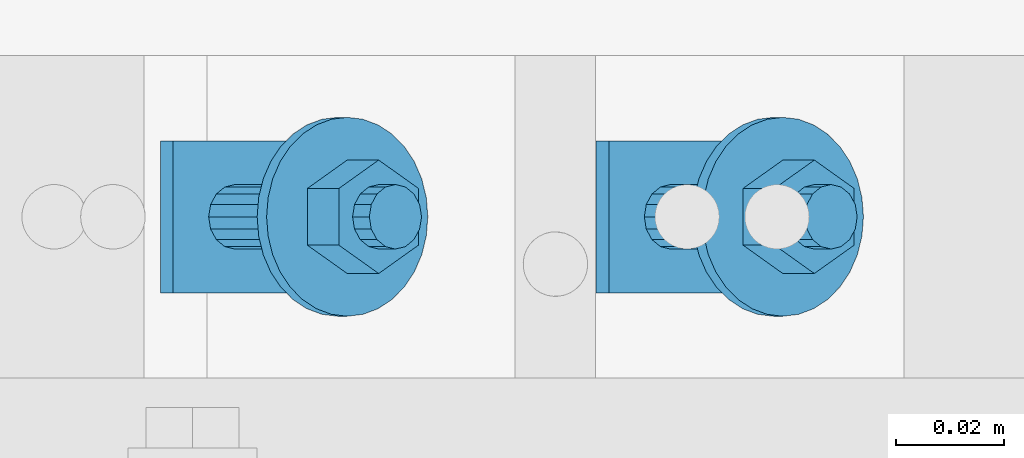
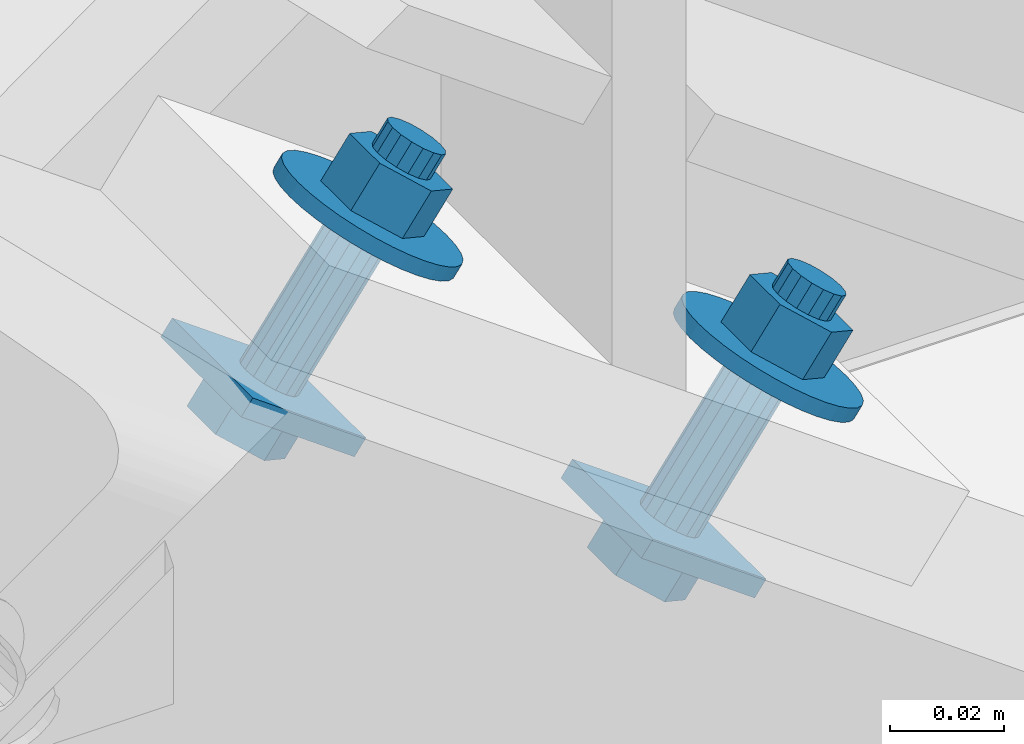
# One storey, part 328 of 825: 1 mechanical fastener.
"""IFC2X3 building model written with IfcOpenShell, lengths in millimetres."""

import ifcopenshell
import ifcopenshell.guid

model = None  # the IFC model being written
_history = None  # IfcOwnerHistory: only IFC2X3 demands one
_inside = {}  # id of a spatial element -> (the spatial element, [elements in it])
_under = {}  # id of a project, library or spatial element -> (it, [spatial elements below it])
_declared = {}  # id of a project -> (the project, [libraries it declares])
_typed = {}  # id of a type object -> (the type object, [elements of that type])
_made_of = {}  # id of a material, layer set ... -> (it, [elements and type objects made of it])


def new_model(schema):
    """Start an empty IFC model of exactly this schema.

    Asked for "IFC4X3", IfcOpenShell would pick the latest addendum, in which some entities
    have other attributes; the version numbers below select the first issue.
    IFC2X3 requires an IfcOwnerHistory on every rooted entity: one is made here for all.
    """
    global model, _history
    if schema == "IFC4X3":
        model = ifcopenshell.file(schema_version=(4, 3, 0, 0))
    else:
        model = ifcopenshell.file(schema=schema)
    _inside.clear()
    _under.clear()
    _declared.clear()
    _typed.clear()
    _made_of.clear()
    _history = None
    if model.schema == "IFC2X3":
        org = make("IfcOrganization", Name="unknown")
        user = make(
            "IfcPersonAndOrganization",
            ThePerson=make("IfcPerson", FamilyName="unknown"),
            TheOrganization=org,
        )
        app = make(
            "IfcApplication",
            ApplicationDeveloper=org,
            Version="unknown",
            ApplicationFullName="unknown",
            ApplicationIdentifier="unknown",
        )
        _history = make(
            "IfcOwnerHistory",
            OwningUser=user,
            OwningApplication=app,
            ChangeAction="ADDED",
            CreationDate=0,
        )
    return model


def make(cls, **values):
    """One entity of the class cls with the attributes given. An attribute that is None is left unset."""
    return model.create_entity(
        cls, **{name: value for name, value in values.items() if value is not None}
    )


def entity(cls, *values):
    """Any entity or typed value of the class cls, its attributes in the order of the schema. None: left unset."""
    e = model.create_entity(cls)
    for i, value in enumerate(values):
        if value is not None:
            e[i] = value
    return e


def rooted(cls, **values):
    """An entity with a GlobalId (a new one), such as an element, a storey or a relation."""
    return make(cls, GlobalId=ifcopenshell.guid.new(), OwnerHistory=_history, **values)


def si_unit(unit_type, name, prefix=None):
    """IfcSIUnit, for example si_unit("LENGTHUNIT", "METRE", prefix="MILLI")."""
    return make("IfcSIUnit", UnitType=unit_type, Prefix=prefix, Name=name)


def converted_unit(unit_type, name, factor, base, dimensions=None, offset=None):
    """IfcConversionBasedUnit, such as the inch: factor (a typed value) times the base unit."""
    return make(
        "IfcConversionBasedUnit"
        if offset is None
        else "IfcConversionBasedUnitWithOffset",
        ConversionOffset=offset,
        Dimensions=None
        if dimensions is None
        else entity("IfcDimensionalExponents", *dimensions),
        UnitType=unit_type,
        Name=name,
        ConversionFactor=make(
            "IfcMeasureWithUnit", ValueComponent=factor, UnitComponent=base
        ),
    )


def assignment(units):
    """IfcUnitAssignment: the units of a project."""
    return None if units is None else make("IfcUnitAssignment", Units=units)


def point(xyz):
    """IfcCartesianPoint."""
    return None if xyz is None else make("IfcCartesianPoint", Coordinates=xyz)


def direction(xyz):
    """IfcDirection."""
    return None if xyz is None else make("IfcDirection", DirectionRatios=xyz)


def frame(location, z_axis=None, x_axis=None):
    """IfcAxis2Placement3D, a coordinate frame: its origin and axes. An axis left out is left unset."""
    return make(
        "IfcAxis2Placement3D",
        Location=point(location),
        Axis=direction(z_axis),
        RefDirection=direction(x_axis),
    )


def origin_with_axes():
    """The frame at (0, 0, 0) with the z axis (0, 0, 1) and the x axis (1, 0, 0) written out."""
    return frame((0.0, 0.0, 0.0), z_axis=(0.0, 0.0, 1.0), x_axis=(1.0, 0.0, 0.0))


def place(relative_to, where):
    """IfcLocalPlacement: puts the frame where relative to a parent placement (None: the world)."""
    return make(
        "IfcLocalPlacement", PlacementRelTo=relative_to, RelativePlacement=where
    )


def context(
    kind, dimensions, precision=None, world=None, true_north=None, identifier=None
):
    """IfcGeometricRepresentationContext, for example the 3D "Model" context."""
    return make(
        "IfcGeometricRepresentationContext",
        ContextIdentifier=identifier,
        ContextType=kind,
        CoordinateSpaceDimension=dimensions,
        Precision=precision,
        WorldCoordinateSystem=world,
        TrueNorth=true_north,
    )


def project(units=None, contexts=None):
    """IfcProject with its units and contexts."""
    return rooted(
        "IfcProject",
        Name="project",
        RepresentationContexts=contexts,
        UnitsInContext=assignment(units),
    )


def spatial(cls, under=None, at=None, **own):
    """A site, building, storey or space (cls), placed at a placement, below another one or the project."""
    s = rooted(cls, ObjectPlacement=at, **own)
    if under is not None:
        _under.setdefault(under.id(), (under, []))[1].append(s)
    return s


def faces_of(points, faces, orient=None, outer=None):
    """IfcFace entities. A face is a list of loops; a loop is a list of indices into points, from 0.

    orient and outer hold one flag for each loop. By default every Orientation is true, the
    first loop of a face is its IfcFaceOuterBound and the others are IfcFaceBound.
    """
    made = []
    for i, loops in enumerate(faces):
        bounds = []
        for j, loop in enumerate(loops):
            is_outer = j == 0 if outer is None else outer[i][j]
            bounds.append(
                make(
                    "IfcFaceOuterBound" if is_outer else "IfcFaceBound",
                    Bound=make("IfcPolyLoop", Polygon=[points[k] for k in loop]),
                    Orientation=True if orient is None else orient[i][j],
                )
            )
        made.append(make("IfcFace", Bounds=bounds))
    return made


def faceted_brep(points, faces, orient=None, outer=None, voids=None):
    """IfcFacetedBrep: a solid bounded by flat faces; with voids (closed shells), ...WithVoids."""
    shared = [point(p) for p in points]
    hull = make("IfcClosedShell", CfsFaces=faces_of(shared, faces, orient, outer))
    if voids is None:
        return make("IfcFacetedBrep", Outer=hull)
    return make(
        "IfcFacetedBrepWithVoids",
        Outer=hull,
        Voids=[
            make(cls, CfsFaces=faces_of(shared, fs, o, b)) for cls, fs, o, b in voids
        ],
    )


def shape(context_of_items, identifier, shape_type, items):
    """IfcShapeRepresentation: the items that make up one representation, for example the "Body"."""
    return make(
        "IfcShapeRepresentation",
        ContextOfItems=context_of_items,
        RepresentationIdentifier=identifier,
        RepresentationType=shape_type,
        Items=items,
    )


def made_of(thing, what):
    """Note that an element or type object is made of a material, layer set ...; save() writes the relation."""
    if what is not None:
        _made_of.setdefault(what.id(), (what, []))[1].append(thing)
    return thing


def element(
    cls,
    number,
    at=None,
    inside=None,
    cuts=None,
    type_object=None,
    material=None,
    context=None,
    identifier="Body",
    shape_type=None,
    held_by="IfcProductDefinitionShape",
    body=None,
    shapes=None,
    **own,
):
    """One element of the class cls, such as IfcWall. Its Tag is "e" and its number.

    at: its placement. inside: the storey or other place that contains it. cuts: it is an
    opening in that element (IfcRelVoidsElement). A single representation is given by context,
    identifier, shape_type and body (its items); several are given by shapes. held_by: the class
    of the entity that holds the representations. save() writes the other relations.
    """
    e = rooted(cls, Tag="e%d" % number, ObjectPlacement=at, **own)
    if body is not None:
        shapes = [shape(context, identifier, shape_type, body)]
    if shapes is not None:
        e.Representation = make(held_by, Representations=shapes)
    if inside is not None:
        _inside.setdefault(inside.id(), (inside, []))[1].append(e)
    if cuts is not None:
        rooted(
            "IfcRelVoidsElement", RelatingBuildingElement=cuts, RelatedOpeningElement=e
        )
    if type_object is not None:
        _typed.setdefault(type_object.id(), (type_object, []))[1].append(e)
    return made_of(e, material)


def aggregate(whole, parts):
    """IfcRelAggregates: a whole, such as a stair, and the parts it consists of."""
    return rooted("IfcRelAggregates", RelatingObject=whole, RelatedObjects=parts)


def save(model, path):
    """Write the relations noted so far, then the file.

    IfcRelAggregates (storeys below a building ...), IfcRelContainedInSpatialStructure (elements
    in a storey), IfcRelDefinesByType, IfcRelAssociatesMaterial and IfcRelDeclares: one each for
    every whole, place, type object, material and project.
    """
    for whole, parts in _under.values():
        aggregate(whole, parts)
    for where, things in _inside.values():
        rooted(
            "IfcRelContainedInSpatialStructure",
            RelatedElements=things,
            RelatingStructure=where,
        )
    for kind, things in _typed.values():
        rooted("IfcRelDefinesByType", RelatedObjects=things, RelatingType=kind)
    for what, things in _made_of.values():
        rooted("IfcRelAssociatesMaterial", RelatedObjects=things, RelatingMaterial=what)
    for by, libraries in _declared.values():
        rooted("IfcRelDeclares", RelatingContext=by, RelatedDefinitions=libraries)
    model.write(path)


model = new_model("IFC2X3")

# Units and contexts
model_context = context("Model", 3, precision=1e-09, world=origin_with_axes())
ifc_project = project(units=[si_unit("LENGTHUNIT", "METRE", prefix="MILLI"), si_unit("AREAUNIT", "SQUARE_METRE"), si_unit("VOLUMEUNIT", "CUBIC_METRE"), converted_unit("PLANEANGLEUNIT", "DEGREE", entity("IfcPlaneAngleMeasure", 0.01745329), si_unit("PLANEANGLEUNIT", "RADIAN"), dimensions=[0, 0, 0, 0, 0, 0, 0])], contexts=[model_context])

# Site, building, storey
site_placement = place(None, origin_with_axes())
site = spatial("IfcSite", under=ifc_project, at=site_placement, Name="Cnopf'sche Kinderklinik", CompositionType="ELEMENT")
building_placement = place(site_placement, origin_with_axes())
building = spatial("IfcBuilding", under=site, at=building_placement, Name="Struktur 1", CompositionType="ELEMENT")
storey_placement = place(building_placement, origin_with_axes())
storey = spatial("IfcBuildingStorey", under=building, at=storey_placement, Name="Default Storey", CompositionType="ELEMENT", Elevation=0.0)

# Mechanical fastener
mechanical_fastener_placement = place(None, origin_with_axes())
element("IfcMechanicalFastener", 1, at=mechanical_fastener_placement, inside=storey, ObjectType="Bolt#501", NominalDiameter=12.0, NominalLength=55.0, context=model_context, shape_type="Brep", body=[
    faceted_brep([(5795.766495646, 5805.879107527, 9567.174459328), (5798.11027822, 5805.879107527, 9570.41586076), (5821.030447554, 5805.879107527, 9553.842815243), (5818.68666498, 5805.879107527, 9550.60141381), (5821.030447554, 5777.59483628, 9553.842815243), (5818.68666498, 5777.59483628, 9550.60141381), (5798.11027822, 5777.59483628, 9570.41586076), (5795.766495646, 5777.59483628, 9567.174459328)], [[[0, 1, 2, 3]], [[3, 2, 4, 5]], [[5, 4, 6, 7]], [[7, 6, 1, 0]], [[3, 5, 7, 0]], [[2, 1, 6, 4]]]),
    faceted_brep([(5876.801531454, 5805.879107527, 9508.579894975), (5879.145314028, 5805.879107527, 9511.821296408), (5902.065483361, 5805.879107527, 9495.24825089), (5899.721700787, 5805.879107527, 9492.006849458), (5902.065483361, 5777.59483628, 9495.24825089), (5899.721700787, 5777.59483628, 9492.006849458), (5879.145314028, 5777.59483628, 9511.821296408), (5876.801531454, 5777.59483628, 9508.579894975)], [[[0, 1, 2, 3]], [[3, 2, 4, 5]], [[5, 4, 6, 7]], [[7, 6, 1, 0]], [[3, 5, 7, 0]], [[2, 1, 6, 4]]]),
    faceted_brep([(5795.803621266, 5796.744471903, 9557.892358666), (5800.198213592, 5796.744471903, 9563.969986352), (5807.226580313, 5801.751971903, 9558.887936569), (5802.831987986, 5801.751971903, 9552.810308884), (5814.254947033, 5796.744471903, 9553.805886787), (5809.860354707, 5796.744471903, 9547.728259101), (5814.254947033, 5786.729471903, 9553.805886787), (5809.860354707, 5786.729471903, 9547.728259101), (5807.226580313, 5781.721971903, 9558.887936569), (5802.831987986, 5781.721971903, 9552.810308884), (5800.198213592, 5786.729471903, 9563.969986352), (5795.803621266, 5786.729471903, 9557.892358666)], [[[0, 1, 2, 3]], [[3, 2, 4, 5]], [[5, 4, 6, 7]], [[7, 6, 8, 9]], [[9, 8, 10, 11]], [[11, 10, 1, 0]], [[3, 5, 7, 9, 11, 0]], [[2, 1, 10, 8, 6, 4]]]),
    faceted_brep([(5876.838657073, 5796.744471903, 9499.297794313), (5881.2332494, 5796.744471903, 9505.375421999), (5888.26161612, 5801.751971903, 9500.293372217), (5883.867023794, 5801.751971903, 9494.215744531), (5895.289982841, 5796.744471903, 9495.211322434), (5890.895390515, 5796.744471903, 9489.133694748), (5895.289982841, 5786.729471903, 9495.211322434), (5890.895390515, 5786.729471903, 9489.133694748), (5888.26161612, 5781.721971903, 9500.293372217), (5883.867023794, 5781.721971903, 9494.215744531), (5881.2332494, 5786.729471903, 9505.375421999), (5876.838657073, 5786.729471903, 9499.297794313)], [[[0, 1, 2, 3]], [[3, 2, 4, 5]], [[5, 4, 6, 7]], [[7, 6, 8, 9]], [[9, 8, 10, 11]], [[11, 10, 1, 0]], [[3, 5, 7, 9, 11, 0]], [[2, 1, 10, 8, 6, 4]]]),
    faceted_brep([(5833.582812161, 5791.736971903, 9585.098186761), (5814.432465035, 5791.736971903, 9558.613664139), (5814.062359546, 5794.033072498, 9558.881278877), (5833.212706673, 5794.033072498, 9585.365801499), (5813.008388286, 5795.97961259, 9559.643381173), (5832.158735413, 5795.97961259, 9586.127903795), (5811.431008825, 5797.280249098, 9560.78394786), (5830.581355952, 5797.280249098, 9587.268470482), (5809.570362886, 5797.736971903, 9562.129338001), (5828.720710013, 5797.736971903, 9588.613860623), (5807.709716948, 5797.280249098, 9563.474728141), (5826.860064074, 5797.280249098, 9589.959250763), (5806.132337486, 5795.97961259, 9564.615294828), (5825.282684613, 5795.97961259, 9591.09981745), (5805.078366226, 5794.033072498, 9565.377397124), (5824.228713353, 5794.033072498, 9591.861919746), (5804.708260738, 5791.736971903, 9565.645011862), (5823.858607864, 5791.736971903, 9592.129534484), (5805.078366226, 5789.440871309, 9565.377397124), (5824.228713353, 5789.440871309, 9591.861919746), (5806.132337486, 5787.494331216, 9564.615294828), (5825.282684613, 5787.494331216, 9591.09981745), (5807.709716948, 5786.193694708, 9563.474728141), (5826.860064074, 5786.193694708, 9589.959250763), (5809.570362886, 5785.736971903, 9562.129338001), (5828.720710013, 5785.736971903, 9588.613860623), (5811.431008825, 5786.193694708, 9560.78394786), (5830.581355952, 5786.193694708, 9587.268470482), (5813.008388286, 5787.494331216, 9559.643381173), (5832.158735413, 5787.494331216, 9586.127903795), (5814.062359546, 5789.440871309, 9558.881278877), (5833.212706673, 5789.440871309, 9585.365801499)], [[[0, 1, 2, 3]], [[3, 2, 4, 5]], [[5, 4, 6, 7]], [[7, 6, 8, 9]], [[9, 8, 10, 11]], [[11, 10, 12, 13]], [[13, 12, 14, 15]], [[15, 14, 16, 17]], [[17, 16, 18, 19]], [[19, 18, 20, 21]], [[21, 20, 22, 23]], [[23, 22, 24, 25]], [[25, 24, 26, 27]], [[27, 26, 28, 29]], [[29, 28, 30, 31]], [[31, 30, 1, 0]], [[2, 1, 30, 28, 26, 24, 22, 20, 18, 16, 14, 12, 10, 8, 6, 4]], [[31, 0, 3, 5, 7, 9, 11, 13, 15, 17, 19, 21, 23, 25, 27, 29]]]),
    faceted_brep([(5914.617847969, 5791.736971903, 9526.503622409), (5895.467500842, 5791.736971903, 9500.019099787), (5895.097395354, 5794.033072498, 9500.286714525), (5914.24774248, 5794.033072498, 9526.771237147), (5894.043424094, 5795.97961259, 9501.04881682), (5913.19377122, 5795.97961259, 9527.533339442), (5892.466044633, 5797.280249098, 9502.189383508), (5911.616391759, 5797.280249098, 9528.67390613), (5890.605398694, 5797.736971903, 9503.534773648), (5909.75574582, 5797.736971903, 9530.01929627), (5888.744752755, 5797.280249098, 9504.880163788), (5907.895099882, 5797.280249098, 9531.36468641), (5887.167373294, 5795.97961259, 9506.020730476), (5906.31772042, 5795.97961259, 9532.505253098), (5886.113402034, 5794.033072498, 9506.782832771), (5905.26374916, 5794.033072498, 9533.267355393), (5885.743296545, 5791.736971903, 9507.050447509), (5904.893643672, 5791.736971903, 9533.534970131), (5886.113402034, 5789.440871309, 9506.782832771), (5905.26374916, 5789.440871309, 9533.267355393), (5887.167373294, 5787.494331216, 9506.020730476), (5906.31772042, 5787.494331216, 9532.505253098), (5888.744752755, 5786.193694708, 9504.880163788), (5907.895099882, 5786.193694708, 9531.36468641), (5890.605398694, 5785.736971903, 9503.534773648), (5909.75574582, 5785.736971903, 9530.01929627), (5892.466044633, 5786.193694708, 9502.189383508), (5911.616391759, 5786.193694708, 9528.67390613), (5894.043424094, 5787.494331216, 9501.04881682), (5913.19377122, 5787.494331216, 9527.533339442), (5895.097395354, 5789.440871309, 9500.286714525), (5914.24774248, 5789.440871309, 9526.771237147)], [[[0, 1, 2, 3]], [[3, 2, 4, 5]], [[5, 4, 6, 7]], [[7, 6, 8, 9]], [[9, 8, 10, 11]], [[11, 10, 12, 13]], [[13, 12, 14, 15]], [[15, 14, 16, 17]], [[17, 16, 18, 19]], [[19, 18, 20, 21]], [[21, 20, 22, 23]], [[23, 22, 24, 25]], [[25, 24, 26, 27]], [[27, 26, 28, 29]], [[29, 28, 30, 31]], [[31, 30, 1, 0]], [[2, 1, 30, 28, 26, 24, 22, 20, 18, 16, 14, 12, 10, 8, 6, 4]], [[31, 0, 3, 5, 7, 9, 11, 13, 15, 17, 19, 21, 23, 25, 27, 29]]]),
    faceted_brep([(5845.470028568, 5791.736971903, 9580.204917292), (5843.712191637, 5791.736971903, 9577.773866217), (5843.424134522, 5795.346142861, 9577.98215367), (5845.181971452, 5795.346142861, 9580.413204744), (5842.571033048, 5798.816615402, 9578.599011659), (5844.328869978, 5798.816615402, 9581.030062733), (5841.185671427, 5802.015021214, 9579.600734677), (5842.943508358, 5802.015021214, 9582.031785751), (5839.32128833, 5804.818447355, 9580.948827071), (5841.07912526, 5804.818447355, 9583.379878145), (5837.049530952, 5807.119159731, 9582.591482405), (5838.807367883, 5807.119159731, 9585.022533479), (5834.457701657, 5808.828743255, 9584.465574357), (5836.215538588, 5808.828743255, 9586.896625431), (5831.64540299, 5809.881499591, 9586.499082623), (5833.403239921, 5809.881499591, 9588.930133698), (5828.720710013, 5810.236971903, 9588.613860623), (5830.478546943, 5810.236971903, 9591.044911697), (5825.796017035, 5809.881499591, 9590.728638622), (5827.553853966, 5809.881499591, 9593.159689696), (5822.983718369, 5808.828743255, 9592.762146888), (5824.741555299, 5808.828743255, 9595.193197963), (5820.391889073, 5807.119159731, 9594.63623884), (5822.149726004, 5807.119159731, 9597.067289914), (5818.120131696, 5804.818447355, 9596.278894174), (5819.877968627, 5804.818447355, 9598.709945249), (5816.255748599, 5802.015021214, 9597.626986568), (5818.013585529, 5802.015021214, 9600.058037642), (5814.870386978, 5798.816615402, 9598.628709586), (5816.628223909, 5798.816615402, 9601.05976066), (5814.017285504, 5795.346142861, 9599.245567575), (5815.775122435, 5795.346142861, 9601.676618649), (5813.729228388, 5791.736971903, 9599.453855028), (5815.487065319, 5791.736971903, 9601.884906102), (5814.017285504, 5788.127800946, 9599.245567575), (5815.775122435, 5788.127800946, 9601.676618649), (5814.870386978, 5784.657328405, 9598.628709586), (5816.628223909, 5784.657328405, 9601.05976066), (5816.255748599, 5781.458922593, 9597.626986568), (5818.013585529, 5781.458922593, 9600.058037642), (5818.120131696, 5778.655496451, 9596.278894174), (5819.877968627, 5778.655496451, 9598.709945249), (5820.391889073, 5776.354784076, 9594.63623884), (5822.149726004, 5776.354784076, 9597.067289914), (5822.983718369, 5774.645200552, 9592.762146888), (5824.741555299, 5774.645200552, 9595.193197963), (5825.796017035, 5773.592444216, 9590.728638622), (5827.553853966, 5773.592444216, 9593.159689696), (5828.720710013, 5773.236971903, 9588.613860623), (5830.478546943, 5773.236971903, 9591.044911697), (5831.64540299, 5773.592444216, 9586.499082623), (5833.403239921, 5773.592444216, 9588.930133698), (5834.457701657, 5774.645200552, 9584.465574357), (5836.215538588, 5774.645200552, 9586.896625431), (5837.049530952, 5776.354784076, 9582.591482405), (5838.807367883, 5776.354784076, 9585.022533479), (5839.32128833, 5778.655496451, 9580.948827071), (5841.07912526, 5778.655496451, 9583.379878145), (5841.185671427, 5781.458922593, 9579.600734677), (5842.943508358, 5781.458922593, 9582.031785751), (5842.571033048, 5784.657328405, 9578.599011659), (5844.328869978, 5784.657328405, 9581.030062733), (5843.424134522, 5788.127800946, 9577.98215367), (5845.181971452, 5788.127800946, 9580.413204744)], [[[0, 1, 2, 3]], [[3, 2, 4, 5]], [[5, 4, 6, 7]], [[7, 6, 8, 9]], [[9, 8, 10, 11]], [[11, 10, 12, 13]], [[13, 12, 14, 15]], [[15, 14, 16, 17]], [[17, 16, 18, 19]], [[19, 18, 20, 21]], [[21, 20, 22, 23]], [[23, 22, 24, 25]], [[25, 24, 26, 27]], [[27, 26, 28, 29]], [[29, 28, 30, 31]], [[31, 30, 32, 33]], [[33, 32, 34, 35]], [[35, 34, 36, 37]], [[37, 36, 38, 39]], [[39, 38, 40, 41]], [[41, 40, 42, 43]], [[43, 42, 44, 45]], [[45, 44, 46, 47]], [[47, 46, 48, 49]], [[49, 48, 50, 51]], [[51, 50, 52, 53]], [[53, 52, 54, 55]], [[55, 54, 56, 57]], [[57, 56, 58, 59]], [[59, 58, 60, 61]], [[61, 60, 62, 63]], [[63, 62, 1, 0]], [[2, 1, 62, 60, 58, 56, 54, 52, 50, 48, 46, 44, 42, 40, 38, 36, 34, 32, 30, 28, 26, 24, 22, 20, 18, 16, 14, 12, 10, 8, 6, 4]], [[63, 0, 3, 5, 7, 9, 11, 13, 15, 17, 19, 21, 23, 25, 27, 29, 31, 33, 35, 37, 39, 41, 43, 45, 47, 49, 51, 53, 55, 57, 59, 61]]]),
    faceted_brep([(5926.505064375, 5791.736971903, 9521.610352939), (5924.747227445, 5791.736971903, 9519.179301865), (5924.459170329, 5795.346142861, 9519.387589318), (5926.21700726, 5795.346142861, 9521.818640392), (5923.606068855, 5798.816615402, 9520.004447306), (5925.363905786, 5798.816615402, 9522.435498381), (5922.220707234, 5802.015021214, 9521.006170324), (5923.978544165, 5802.015021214, 9523.437221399), (5920.356324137, 5804.818447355, 9522.354262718), (5922.114161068, 5804.818447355, 9524.785313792), (5918.08456676, 5807.119159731, 9523.996918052), (5919.84240369, 5807.119159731, 9526.427969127), (5915.492737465, 5808.828743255, 9525.871010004), (5917.250574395, 5808.828743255, 9528.302061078), (5912.680438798, 5809.881499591, 9527.904518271), (5914.438275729, 5809.881499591, 9530.335569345), (5909.75574582, 5810.236971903, 9530.01929627), (5911.513582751, 5810.236971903, 9532.450347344), (5906.831052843, 5809.881499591, 9532.134074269), (5908.588889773, 5809.881499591, 9534.565125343), (5904.018754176, 5808.828743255, 9534.167582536), (5905.776591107, 5808.828743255, 9536.59863361), (5901.426924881, 5807.119159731, 9536.041674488), (5903.184761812, 5807.119159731, 9538.472725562), (5899.155167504, 5804.818447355, 9537.684329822), (5900.913004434, 5804.818447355, 9540.115380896), (5897.290784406, 5802.015021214, 9539.032422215), (5899.048621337, 5802.015021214, 9541.46347329), (5895.905422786, 5798.816615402, 9540.034145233), (5897.663259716, 5798.816615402, 9542.465196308), (5895.052321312, 5795.346142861, 9540.651003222), (5896.810158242, 5795.346142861, 9543.082054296), (5894.764264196, 5791.736971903, 9540.859290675), (5896.522101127, 5791.736971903, 9543.290341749), (5895.052321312, 5788.127800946, 9540.651003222), (5896.810158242, 5788.127800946, 9543.082054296), (5895.905422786, 5784.657328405, 9540.034145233), (5897.663259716, 5784.657328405, 9542.465196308), (5897.290784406, 5781.458922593, 9539.032422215), (5899.048621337, 5781.458922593, 9541.46347329), (5899.155167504, 5778.655496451, 9537.684329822), (5900.913004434, 5778.655496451, 9540.115380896), (5901.426924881, 5776.354784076, 9536.041674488), (5903.184761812, 5776.354784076, 9538.472725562), (5904.018754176, 5774.645200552, 9534.167582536), (5905.776591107, 5774.645200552, 9536.59863361), (5906.831052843, 5773.592444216, 9532.134074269), (5908.588889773, 5773.592444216, 9534.565125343), (5909.75574582, 5773.236971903, 9530.01929627), (5911.513582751, 5773.236971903, 9532.450347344), (5912.680438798, 5773.592444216, 9527.904518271), (5914.438275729, 5773.592444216, 9530.335569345), (5915.492737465, 5774.645200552, 9525.871010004), (5917.250574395, 5774.645200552, 9528.302061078), (5918.08456676, 5776.354784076, 9523.996918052), (5919.84240369, 5776.354784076, 9526.427969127), (5920.356324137, 5778.655496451, 9522.354262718), (5922.114161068, 5778.655496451, 9524.785313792), (5922.220707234, 5781.458922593, 9521.006170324), (5923.978544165, 5781.458922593, 9523.437221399), (5923.606068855, 5784.657328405, 9520.004447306), (5925.363905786, 5784.657328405, 9522.435498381), (5924.459170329, 5788.127800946, 9519.387589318), (5926.21700726, 5788.127800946, 9521.818640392)], [[[0, 1, 2, 3]], [[3, 2, 4, 5]], [[5, 4, 6, 7]], [[7, 6, 8, 9]], [[9, 8, 10, 11]], [[11, 10, 12, 13]], [[13, 12, 14, 15]], [[15, 14, 16, 17]], [[17, 16, 18, 19]], [[19, 18, 20, 21]], [[21, 20, 22, 23]], [[23, 22, 24, 25]], [[25, 24, 26, 27]], [[27, 26, 28, 29]], [[29, 28, 30, 31]], [[31, 30, 32, 33]], [[33, 32, 34, 35]], [[35, 34, 36, 37]], [[37, 36, 38, 39]], [[39, 38, 40, 41]], [[41, 40, 42, 43]], [[43, 42, 44, 45]], [[45, 44, 46, 47]], [[47, 46, 48, 49]], [[49, 48, 50, 51]], [[51, 50, 52, 53]], [[53, 52, 54, 55]], [[55, 54, 56, 57]], [[57, 56, 58, 59]], [[59, 58, 60, 61]], [[61, 60, 62, 63]], [[63, 62, 1, 0]], [[2, 1, 62, 60, 58, 56, 54, 52, 50, 48, 46, 44, 42, 40, 38, 36, 34, 32, 30, 28, 26, 24, 22, 20, 18, 16, 14, 12, 10, 8, 6, 4]], [[63, 0, 3, 5, 7, 9, 11, 13, 15, 17, 19, 21, 23, 25, 27, 29, 31, 33, 35, 37, 39, 41, 43, 45, 47, 49, 51, 53, 55, 57, 59, 61]]]),
    faceted_brep([(5823.074725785, 5797.011971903, 9596.398443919), (5828.93418222, 5797.011971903, 9604.5019475), (5836.338003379, 5802.286971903, 9599.148415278), (5830.478546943, 5802.286971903, 9591.044911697), (5843.741824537, 5797.011971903, 9593.794883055), (5837.882368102, 5797.011971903, 9585.691379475), (5843.741824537, 5786.461971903, 9593.794883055), (5837.882368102, 5786.461971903, 9585.691379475), (5836.338003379, 5781.186971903, 9599.148415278), (5830.478546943, 5781.186971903, 9591.044911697), (5828.93418222, 5786.461971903, 9604.5019475), (5823.074725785, 5786.461971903, 9596.398443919)], [[[0, 1, 2, 3]], [[3, 2, 4, 5]], [[5, 4, 6, 7]], [[7, 6, 8, 9]], [[9, 8, 10, 11]], [[11, 10, 1, 0]], [[3, 5, 7, 9, 11, 0]], [[2, 1, 10, 8, 6, 4]]]),
    faceted_brep([(5904.109761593, 5797.011971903, 9537.803879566), (5909.969218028, 5797.011971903, 9545.907383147), (5917.373039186, 5802.286971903, 9540.553850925), (5911.513582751, 5802.286971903, 9532.450347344), (5924.776860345, 5797.011971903, 9535.200318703), (5918.917403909, 5797.011971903, 9527.096815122), (5924.776860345, 5786.461971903, 9535.200318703), (5918.917403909, 5786.461971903, 9527.096815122), (5917.373039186, 5781.186971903, 9540.553850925), (5911.513582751, 5781.186971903, 9532.450347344), (5909.969218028, 5786.461971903, 9545.907383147), (5904.109761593, 5786.461971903, 9537.803879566)], [[[0, 1, 2, 3]], [[3, 2, 4, 5]], [[5, 4, 6, 7]], [[7, 6, 8, 9]], [[9, 8, 10, 11]], [[11, 10, 1, 0]], [[3, 5, 7, 9, 11, 0]], [[2, 1, 10, 8, 6, 4]]]),
    faceted_brep([(5844.315692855, 5791.736971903, 9599.941532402), (5841.200105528, 5791.736971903, 9595.632741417), (5840.830000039, 5794.033072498, 9595.900356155), (5843.945587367, 5794.033072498, 9600.20914714), (5839.776028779, 5795.97961259, 9596.662458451), (5842.891616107, 5795.97961259, 9600.971249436), (5838.198649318, 5797.280249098, 9597.803025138), (5841.314236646, 5797.280249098, 9602.111816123), (5836.338003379, 5797.736971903, 9599.148415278), (5839.453590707, 5797.736971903, 9603.457206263), (5834.477357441, 5797.280249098, 9600.493805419), (5837.592944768, 5797.280249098, 9604.802596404), (5832.899977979, 5795.97961259, 9601.634372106), (5836.015565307, 5795.97961259, 9605.943163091), (5831.846006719, 5794.033072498, 9602.396474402), (5834.961594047, 5794.033072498, 9606.705265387), (5831.475901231, 5791.736971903, 9602.66408914), (5834.591488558, 5791.736971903, 9606.972880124), (5831.846006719, 5789.440871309, 9602.396474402), (5834.961594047, 5789.440871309, 9606.705265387), (5832.899977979, 5787.494331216, 9601.634372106), (5836.015565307, 5787.494331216, 9605.943163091), (5834.477357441, 5786.193694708, 9600.493805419), (5837.592944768, 5786.193694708, 9604.802596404), (5836.338003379, 5785.736971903, 9599.148415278), (5839.453590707, 5785.736971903, 9603.457206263), (5838.198649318, 5786.193694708, 9597.803025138), (5841.314236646, 5786.193694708, 9602.111816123), (5839.776028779, 5787.494331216, 9596.662458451), (5842.891616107, 5787.494331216, 9600.971249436), (5840.830000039, 5789.440871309, 9595.900356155), (5843.945587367, 5789.440871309, 9600.20914714)], [[[0, 1, 2, 3]], [[3, 2, 4, 5]], [[5, 4, 6, 7]], [[7, 6, 8, 9]], [[9, 8, 10, 11]], [[11, 10, 12, 13]], [[13, 12, 14, 15]], [[15, 14, 16, 17]], [[17, 16, 18, 19]], [[19, 18, 20, 21]], [[21, 20, 22, 23]], [[23, 22, 24, 25]], [[25, 24, 26, 27]], [[27, 26, 28, 29]], [[29, 28, 30, 31]], [[31, 30, 1, 0]], [[2, 1, 30, 28, 26, 24, 22, 20, 18, 16, 14, 12, 10, 8, 6, 4]], [[31, 0, 3, 5, 7, 9, 11, 13, 15, 17, 19, 21, 23, 25, 27, 29]]]),
    faceted_brep([(5925.350728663, 5791.736971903, 9541.34696805), (5922.235141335, 5791.736971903, 9537.038177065), (5921.865035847, 5794.033072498, 9537.305791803), (5924.980623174, 5794.033072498, 9541.614582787), (5920.811064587, 5795.97961259, 9538.067894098), (5923.926651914, 5795.97961259, 9542.376685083), (5919.233685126, 5797.280249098, 9539.208460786), (5922.349272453, 5797.280249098, 9543.51725177), (5917.373039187, 5797.736971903, 9540.553850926), (5920.488626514, 5797.736971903, 9544.862641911), (5915.512393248, 5797.280249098, 9541.899241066), (5918.627980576, 5797.280249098, 9546.208032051), (5913.935013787, 5795.97961259, 9543.039807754), (5917.050601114, 5795.97961259, 9547.348598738), (5912.881042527, 5794.033072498, 9543.801910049), (5915.996629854, 5794.033072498, 9548.110701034), (5912.510937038, 5791.736971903, 9544.069524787), (5915.626524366, 5791.736971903, 9548.378315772), (5912.881042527, 5789.440871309, 9543.801910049), (5915.996629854, 5789.440871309, 9548.110701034), (5913.935013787, 5787.494331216, 9543.039807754), (5917.050601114, 5787.494331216, 9547.348598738), (5915.512393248, 5786.193694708, 9541.899241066), (5918.627980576, 5786.193694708, 9546.208032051), (5917.373039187, 5785.736971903, 9540.553850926), (5920.488626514, 5785.736971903, 9544.862641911), (5919.233685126, 5786.193694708, 9539.208460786), (5922.349272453, 5786.193694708, 9543.51725177), (5920.811064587, 5787.494331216, 9538.067894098), (5923.926651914, 5787.494331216, 9542.376685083), (5921.865035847, 5789.440871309, 9537.305791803), (5924.980623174, 5789.440871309, 9541.614582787)], [[[0, 1, 2, 3]], [[3, 2, 4, 5]], [[5, 4, 6, 7]], [[7, 6, 8, 9]], [[9, 8, 10, 11]], [[11, 10, 12, 13]], [[13, 12, 14, 15]], [[15, 14, 16, 17]], [[17, 16, 18, 19]], [[19, 18, 20, 21]], [[21, 20, 22, 23]], [[23, 22, 24, 25]], [[25, 24, 26, 27]], [[27, 26, 28, 29]], [[29, 28, 30, 31]], [[31, 30, 1, 0]], [[2, 1, 30, 28, 26, 24, 22, 20, 18, 16, 14, 12, 10, 8, 6, 4]], [[31, 0, 3, 5, 7, 9, 11, 13, 15, 17, 19, 21, 23, 25, 27, 29]]]),
])

save(model, "model.ifc")
